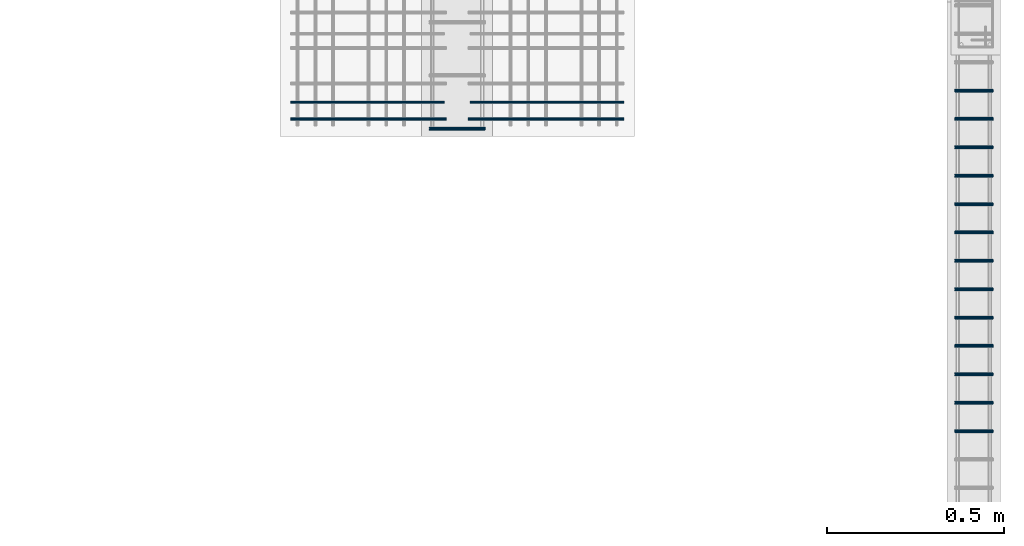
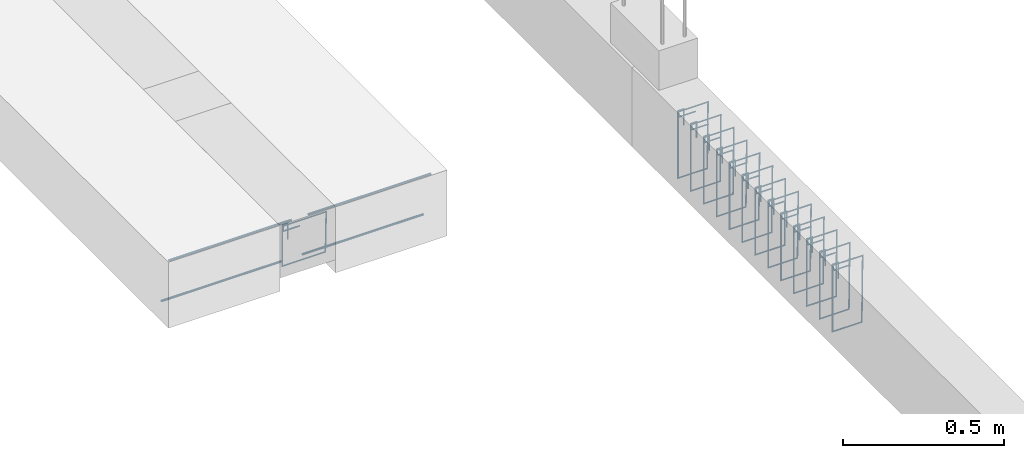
# One storey, part 109 of 150: 18 reinforcing bars.
"""IFC4 building model written with IfcOpenShell, lengths in centimetres."""

from ifc_helpers import new_model, entity, si_unit, derived_unit, frame, origin_with_axes, place, context, project, spatial, source, transform, mapped, element, save


model = new_model("IFC4")

# Units and contexts
model_context = context("Model", 3, precision=1e-05, world=origin_with_axes(), identifier="Body")
ifc_project = project(units=[si_unit("LENGTHUNIT", "METRE", prefix="CENTI"), si_unit("VOLUMEUNIT", "CUBIC_METRE"), si_unit("AREAUNIT", "SQUARE_METRE"), si_unit("POWERUNIT", "WATT"), si_unit("LUMINOUSFLUXUNIT", "LUMEN"), si_unit("ELECTRICCURRENTUNIT", "AMPERE"), si_unit("PRESSUREUNIT", "PASCAL", prefix="KILO"), si_unit("MASSUNIT", "GRAM", prefix="KILO"), si_unit("PLANEANGLEUNIT", "RADIAN"), derived_unit("VOLUMETRICFLOWRATEUNIT", [(si_unit("LENGTHUNIT", "METRE"), 3), (si_unit("TIMEUNIT", "SECOND"), -1)])], contexts=[model_context])

# Site, building, storey
site_placement = place(None, frame((-4000.0, 0.0, 0.0), z_axis=(0.0, 0.0, 1.0), x_axis=(1.0, 0.0, 0.0)))
site = spatial("IfcSite", under=ifc_project, at=site_placement, Name="PADRÃO")
building_placement = place(site_placement, frame((0.0, 0.0, -14.0)))
building = spatial("IfcBuilding", under=site, at=building_placement, Name="CRECHE PRÉ-ESCOLA TIPO 2")
placement = place(building_placement, origin_with_axes())
storey_placement = place(placement, frame((0.0, 0.0, 30.0), z_axis=(0.0, 0.0, 1.0), x_axis=(1.0, 0.0, 0.0)))
storey = spatial("IfcBuildingStorey", under=building, at=storey_placement, Name="VIGA BALDRAME", CompositionType="ELEMENT", Elevation=16.0)

# Reinforcing bars
shared_shape_1 = source(origin_with_axes(), model_context, "Body", "AdvancedSweptSolid", [
    entity("IfcSweptDiskSolid", entity("IfcCompositeCurve", [entity("IfcCompositeCurveSegment", "CONTINUOUS", True, entity("IfcPolyline", [entity("IfcCartesianPoint", [2.0, -6.0, 0.0]), entity("IfcCartesianPoint", [2.0, 0.0, 0.0])])), entity("IfcCompositeCurveSegment", "CONTINUOUS", True, entity("IfcPolyline", [entity("IfcCartesianPoint", [2.0, 0.0, 0.0]), entity("IfcCartesianPoint", [0.0, 0.0, 0.0])])), entity("IfcCompositeCurveSegment", "CONTINUOUS", True, entity("IfcPolyline", [entity("IfcCartesianPoint", [0.0, 0.0, 0.0]), entity("IfcCartesianPoint", [0.0, -25.5, 0.0])])), entity("IfcCompositeCurveSegment", "CONTINUOUS", True, entity("IfcPolyline", [entity("IfcCartesianPoint", [0.0, -25.5, 0.0]), entity("IfcCartesianPoint", [10.5, -25.5, 0.0])])), entity("IfcCompositeCurveSegment", "CONTINUOUS", True, entity("IfcPolyline", [entity("IfcCartesianPoint", [10.5, -25.5, 0.0]), entity("IfcCartesianPoint", [10.5, 0.0, 0.5])])), entity("IfcCompositeCurveSegment", "CONTINUOUS", True, entity("IfcPolyline", [entity("IfcCartesianPoint", [10.5, 0.0, 0.5]), entity("IfcCartesianPoint", [0.0, 0.0, 0.5])])), entity("IfcCompositeCurveSegment", "CONTINUOUS", True, entity("IfcPolyline", [entity("IfcCartesianPoint", [0.0, 0.0, 0.5]), entity("IfcCartesianPoint", [0.0, -2.0, 0.5])])), entity("IfcCompositeCurveSegment", "CONTINUOUS", True, entity("IfcPolyline", [entity("IfcCartesianPoint", [0.0, -2.0, 0.5]), entity("IfcCartesianPoint", [6.0, -2.0, 0.5])]))], False), 0.25),
])
for number, where, z_axis, x_axis, name in (
    (1, (3986.25, 3203.25, -17.25), (0.0, -1.0, 0.0), (1.0, 0.0, 0.0), "V230 - Estribo"),
    (2, (3986.25, 3195.25, -17.25), (0.0, -1.0, 0.0), (1.0, 0.0, 0.0), "V230 - Estribo"),
    (3, (3986.25, 3187.25, -17.25), (0.0, -1.0, 0.0), (1.0, 0.0, 0.0), "V230 - Estribo"),
    (4, (3986.25, 3179.25, -17.25), (0.0, -1.0, 0.0), (1.0, 0.0, 0.0), "V230 - Estribo"),
    (5, (3986.25, 3171.25, -17.25), (0.0, -1.0, 0.0), (1.0, 0.0, 0.0), "V230 - Estribo"),
    (6, (3986.25, 3163.25, -17.25), (0.0, -1.0, 0.0), (1.0, 0.0, 0.0), "V230 - Estribo"),
    (7, (3986.25, 3155.25, -17.25), (0.0, -1.0, 0.0), (1.0, 0.0, 0.0), "V230 - Estribo"),
    (8, (3986.25, 3147.25, -17.25), (0.0, -1.0, 0.0), (1.0, 0.0, 0.0), "V230 - Estribo"),
    (9, (3986.25, 3139.25, -17.25), (0.0, -1.0, 0.0), (1.0, 0.0, 0.0), "V230 - Estribo"),
    (10, (3986.25, 3131.25, -17.25), (0.0, -1.0, 0.0), (1.0, 0.0, 0.0), "V230 - Estribo"),
    (11, (3986.25, 3123.25, -17.25), (0.0, -1.0, 0.0), (1.0, 0.0, 0.0), "V230 - Estribo"),
    (12, (3986.25, 3115.25, -17.25), (0.0, -1.0, 0.0), (1.0, 0.0, 0.0), "V230 - Estribo"),
    (13, (3986.25, 3107.25, -17.25), (0.0, -1.0, 0.0), (1.0, 0.0, 0.0), "V230 - Estribo"),
):
    element("IfcReinforcingBar", number, at=place(storey_placement, frame(where, z_axis=z_axis, x_axis=x_axis)), inside=storey, Name=name, BarLength=0.0, CrossSectionArea=1.9634954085e-05, NominalDiameter=0.5, PredefinedType="MAIN", context=model_context, shape_type="MappedRepresentation", body=[
        mapped(shared_shape_1, transform((0.0, 0.0, 0.0), scale=1.0)),
    ])
shared_shape_2 = source(origin_with_axes(), model_context, "Body", "AdvancedSweptSolid", [
    entity("IfcSweptDiskSolid", entity("IfcCompositeCurve", [entity("IfcCompositeCurveSegment", "CONTINUOUS", True, entity("IfcPolyline", [entity("IfcCartesianPoint", [2.0, -6.0, 0.0]), entity("IfcCartesianPoint", [2.0, 0.0, 0.0])])), entity("IfcCompositeCurveSegment", "CONTINUOUS", True, entity("IfcPolyline", [entity("IfcCartesianPoint", [2.0, 0.0, 0.0]), entity("IfcCartesianPoint", [0.0, 0.0, 0.0])])), entity("IfcCompositeCurveSegment", "CONTINUOUS", True, entity("IfcPolyline", [entity("IfcCartesianPoint", [0.0, 0.0, 0.0]), entity("IfcCartesianPoint", [0.0, -15.5, 0.0])])), entity("IfcCompositeCurveSegment", "CONTINUOUS", True, entity("IfcPolyline", [entity("IfcCartesianPoint", [0.0, -15.5, 0.0]), entity("IfcCartesianPoint", [15.5, -15.5, 0.0])])), entity("IfcCompositeCurveSegment", "CONTINUOUS", True, entity("IfcPolyline", [entity("IfcCartesianPoint", [15.5, -15.5, 0.0]), entity("IfcCartesianPoint", [15.5, 0.0, 0.5])])), entity("IfcCompositeCurveSegment", "CONTINUOUS", True, entity("IfcPolyline", [entity("IfcCartesianPoint", [15.5, 0.0, 0.5]), entity("IfcCartesianPoint", [0.0, 0.0, 0.5])])), entity("IfcCompositeCurveSegment", "CONTINUOUS", True, entity("IfcPolyline", [entity("IfcCartesianPoint", [0.0, 0.0, 0.5]), entity("IfcCartesianPoint", [0.0, -2.0, 0.5])])), entity("IfcCompositeCurveSegment", "CONTINUOUS", True, entity("IfcPolyline", [entity("IfcCartesianPoint", [0.0, -2.0, 0.5]), entity("IfcCartesianPoint", [6.0, -2.0, 0.5])]))], False), 0.25),
])
reinforcing_bar_1_placement = place(storey_placement, frame((3838.09, 3192.52, -2.25), z_axis=(0.0, -1.0, 0.0), x_axis=(1.0, 0.0, 0.0)))
element("IfcReinforcingBar", 14, at=reinforcing_bar_1_placement, inside=storey, Name="VM1 - Estribo", BarLength=0.0, CrossSectionArea=1.9634954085e-05, NominalDiameter=0.5, PredefinedType="MAIN", context=model_context, shape_type="MappedRepresentation", body=[
    mapped(shared_shape_2, transform((0.0, 0.0, 0.0), scale=1.0)),
])
reinforcing_bar_2_placement = place(storey_placement, frame((3820.545, 3199.68666666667, -21.2), z_axis=(0.0, 0.0, 1.0), x_axis=(1.0, 0.0, 0.0)))
element("IfcReinforcingBar", 15, at=reinforcing_bar_2_placement, inside=storey, Name="LM1 - Inferior X", BarLength=0.0, CrossSectionArea=5.0265482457e-05, NominalDiameter=0.8, PredefinedType="MAIN", context=model_context, shape_type="AdvancedSweptSolid", body=[
    entity("IfcSweptDiskSolid", entity("IfcCompositeCurve", [entity("IfcCompositeCurveSegment", "CONTINUOUS", True, entity("IfcPolyline", [entity("IfcCartesianPoint", [-21.695, 0.0, -0.4]), entity("IfcCartesianPoint", [21.695, 0.0, -0.4])]))], False), 0.4),
])
reinforcing_bar_3_placement = place(storey_placement, frame((3820.84, 3195.02, -3.0), z_axis=(0.0, 0.0, 1.0), x_axis=(1.0, 0.0, 0.0)))
element("IfcReinforcingBar", 16, at=reinforcing_bar_3_placement, inside=storey, Name="LM1 - Superior X", BarLength=0.0, CrossSectionArea=5.0265482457e-05, NominalDiameter=0.8, PredefinedType="MAIN", context=model_context, shape_type="AdvancedSweptSolid", body=[
    entity("IfcSweptDiskSolid", entity("IfcCompositeCurve", [entity("IfcCompositeCurveSegment", "CONTINUOUS", True, entity("IfcPolyline", [entity("IfcCartesianPoint", [-22.0, 0.0, -0.4]), entity("IfcCartesianPoint", [22.0, 0.0, -0.4])]))], False), 0.4),
])
reinforcing_bar_4_placement = place(storey_placement, frame((3871.145, 3199.68666666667, -21.2), z_axis=(0.0, 0.0, 1.0), x_axis=(1.0, 0.0, 0.0)))
element("IfcReinforcingBar", 17, at=reinforcing_bar_4_placement, inside=storey, Name="LM2 - Inferior X", BarLength=0.0, CrossSectionArea=5.0265482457e-05, NominalDiameter=0.8, PredefinedType="MAIN", context=model_context, shape_type="AdvancedSweptSolid", body=[
    entity("IfcSweptDiskSolid", entity("IfcCompositeCurve", [entity("IfcCompositeCurveSegment", "CONTINUOUS", True, entity("IfcPolyline", [entity("IfcCartesianPoint", [-21.695, 0.0, -0.4]), entity("IfcCartesianPoint", [21.695, 0.0, -0.4])]))], False), 0.4),
])
reinforcing_bar_5_placement = place(storey_placement, frame((3870.84, 3195.02, -3.0), z_axis=(0.0, 0.0, 1.0), x_axis=(1.0, 0.0, 0.0)))
element("IfcReinforcingBar", 18, at=reinforcing_bar_5_placement, inside=storey, Name="LM2 - Superior X", BarLength=0.0, CrossSectionArea=5.0265482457e-05, NominalDiameter=0.8, PredefinedType="MAIN", context=model_context, shape_type="AdvancedSweptSolid", body=[
    entity("IfcSweptDiskSolid", entity("IfcCompositeCurve", [entity("IfcCompositeCurveSegment", "CONTINUOUS", True, entity("IfcPolyline", [entity("IfcCartesianPoint", [-22.0, 0.0, -0.4]), entity("IfcCartesianPoint", [22.0, 0.0, -0.4])]))], False), 0.4),
])

save(model, "model.ifc")
